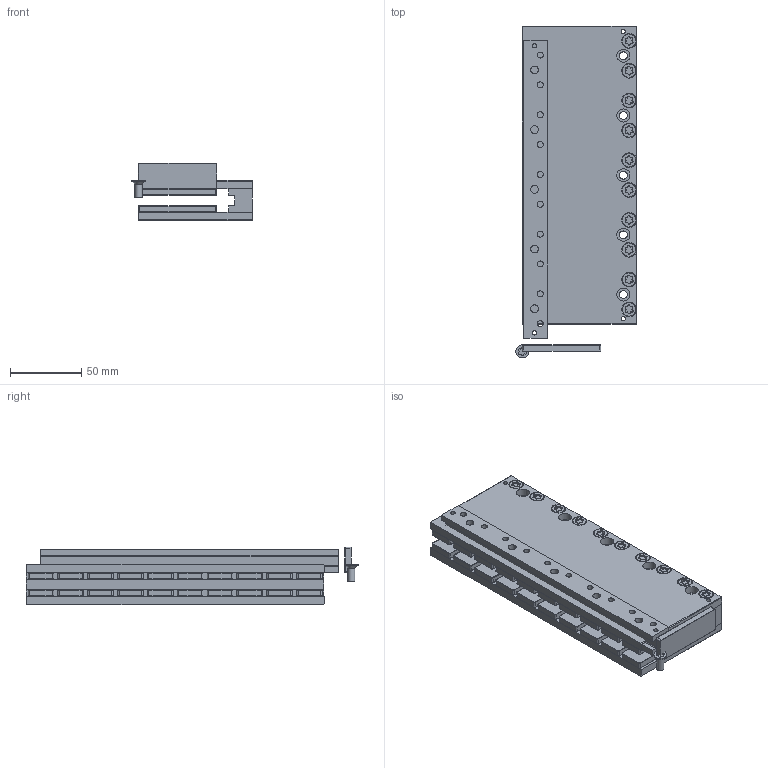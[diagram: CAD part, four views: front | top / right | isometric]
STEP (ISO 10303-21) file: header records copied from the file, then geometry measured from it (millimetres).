
FILE_DESCRIPTION( ( 'STEP AP214' ), '1' );
FILE_NAME( 'ML1500_02-L(210).stp', '2006-09-29T13:40:37', ( ' ' ), ( ' ' ), 'XStep 1.0', ' ', ' ' );
FILE_SCHEMA( ( 'CONFIG_CONTROL_DESIGN) ( )' ) );
Length unit declared in the file: metre
Products named in the file (34): Assem1; Assem2; 4022 363 70193; 4022 363 50121; 4022 363 82593; 2522 203 07034
Bounding box: 84.65 x 233.61 x 40.4 mm (x, y, z)
Volume: 666922.4 mm3; surface area: 306580.6 mm2
Topology: 86 solids, 86 shells, 2498 faces, 6220 edges, 3894 vertices
Faces by surface type: cylinder 1146, plane 892, torus 320, cone 140
Full cylindrical faces by diameter (mm): 3 x12, 4.2 x20, 5 x40, 5.5 x50, 9.2 x20, 9.3 x40
Entity records: 28569 total; most frequent: DIRECTION 5156, CARTESIAN_POINT 4780, ORIENTED_EDGE 4482, EDGE_CURVE 2241, AXIS2_PLACEMENT_3D 1951, VERTEX_POINT 1495, LINE 1254, VECTOR 1254
